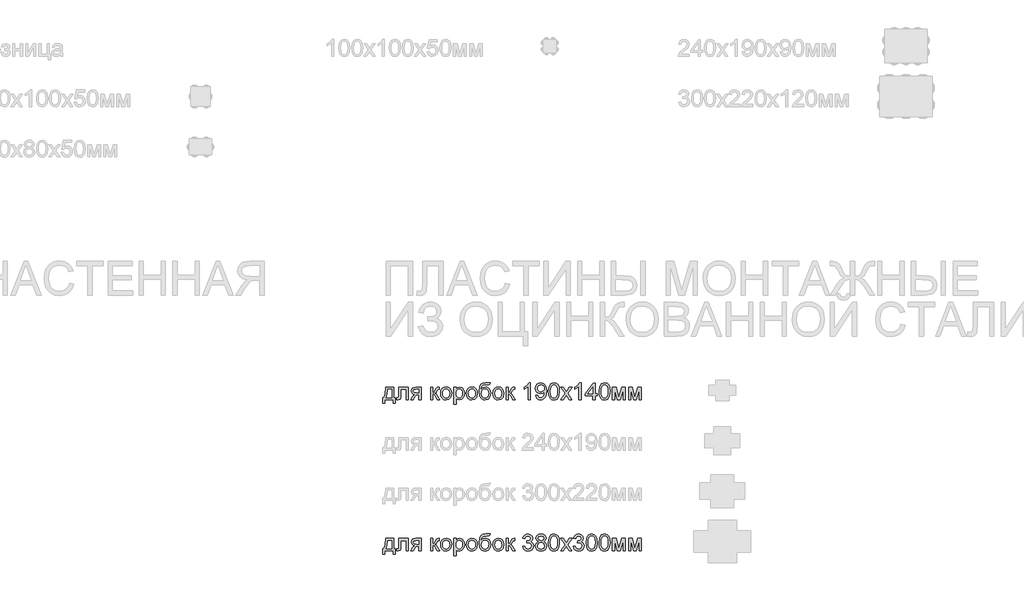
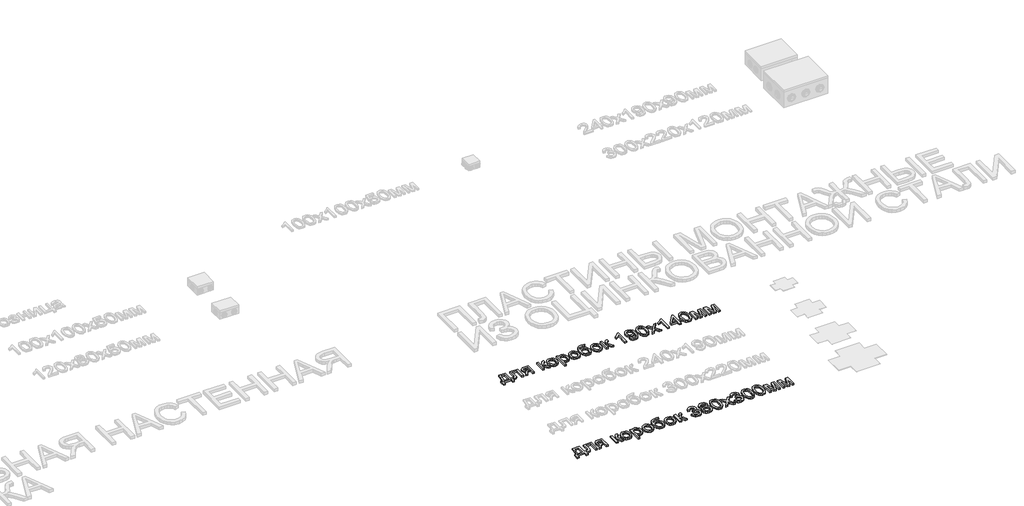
# One storey, part 8 of 98: 2 proxies.
"""IFC4 building model written with IfcOpenShell, lengths in millimetres."""

from ifc_helpers import new_model, si_unit, origin, origin_with_axes, place, context, project, spatial, polyline, outline, extrude, element, save

model = new_model("IFC4")

# Units and contexts
model_context = context("Model", 3, world=origin())
ifc_project = project(units=[si_unit("LENGTHUNIT", "METRE", prefix="MILLI")], contexts=[model_context])

# Site, building, storey
site = spatial("IfcSite", under=ifc_project)
building = spatial("IfcBuilding", under=site)
storey = spatial("IfcBuildingStorey", under=building, Name="Этаж 01", Elevation=0.0)

# Proxies
placement = place(None, origin())
element("IfcBuildingElementProxy", 1, Name="100", ObjectType="100", at=placement, inside=storey, context=model_context, shape_type="SweptSolid", body=[
    extrude(outline(polyline([(8408.5501681, -48330.4498145), (8455.6390635, -48330.4498145), (8455.6390635, -48391.6653785), (8465.0568426, -48391.6653785), (8465.0568426, -48424.6276053), (8452.4998038, -48424.6276053), (8452.4998038, -48404.2224173), (8400.7020189, -48404.2224173), (8400.7020189, -48424.6276053), (8388.1449801, -48424.6276053), (8388.1449801, -48391.6653785), (8395.9931294, -48391.6653785), (8405.6929513, -48367.7162606), (8408.5501681, -48330.4498145)]), holes=[polyline([(8419.5375771, -48343.0068533), (8416.5945211, -48371.6158098), (8410.119798, -48391.6653785), (8443.0820247, -48391.6653785), (8443.0820247, -48343.0068533), (8419.5375771, -48343.0068533)])]), origin_with_axes(), (0.0, 0.0, 1.0), 10.0),
    extrude(outline(polyline([(8485.4620306, -48330.4498145), (8541.968705, -48330.4498145), (8541.968705, -48404.1488409), (8529.4116663, -48404.1488409), (8529.4116663, -48343.0068533), (8498.0190694, -48343.0068533), (8498.0190694, -48378.2008975), (8497.1729408, -48394.4367562), (8492.5253649, -48401.2916241), (8481.537956, -48404.2224173), (8471.335362, -48403.5847552), (8471.335362, -48391.6653785), (8476.9516938, -48391.6653785), (8482.6293392, -48390.8928263), (8484.8979449, -48388.4402797), (8485.4620306, -48377.489659), (8485.4620306, -48330.4498145)])), origin_with_axes(), (0.0, 0.0, 1.0), 10.0),
    extrude(outline(polyline([(8617.3109377, -48330.4498145), (8617.3109377, -48404.2224173), (8604.7538989, -48404.2224173), (8604.7538989, -48375.9690801), (8597.9112938, -48375.9690801), (8588.5916166, -48377.5632354), (8579.8360251, -48388.2808642), (8569.8296348, -48404.2224173), (8555.3105587, -48404.2224173), (8567.9166484, -48384.0624839), (8578.6097518, -48373.6146353), (8570.0258385, -48370.984279), (8563.9925738, -48365.9872153), (8559.2346334, -48351.7624448), (8560.8594455, -48343.1662688), (8565.7338819, -48336.3604519), (8573.6862644, -48331.9274739), (8584.5449146, -48330.4498145), (8617.3109377, -48330.4498145)]), holes=[polyline([(8604.7538989, -48343.0068533), (8588.1992091, -48343.0068533), (8574.7960417, -48345.913121), (8571.7916721, -48352.718938), (8576.2185188, -48360.8246046), (8591.9025545, -48363.4120413), (8604.7538989, -48363.4120413), (8604.7538989, -48343.0068533)])]), origin_with_axes(), (0.0, 0.0, 1.0), 10.0),
    extrude(outline(polyline([(8675.387242, -48330.4498145), (8687.9442807, -48330.4498145), (8687.9442807, -48361.8424114), (8696.3565157, -48359.5860685), (8703.2481717, -48346.4404186), (8708.9748681, -48335.0973904), (8714.0271142, -48331.4063077), (8723.2119013, -48330.4498145), (8725.615397, -48330.4498145), (8725.615397, -48343.0804297), (8722.2308827, -48343.0068533), (8716.0995161, -48344.3312285), (8711.783034, -48352.5963106), (8706.7185252, -48361.5358431), (8699.6184027, -48365.9136389), (8707.5401283, -48370.800338), (8715.3147012, -48381.0949025), (8728.7546567, -48404.2224173), (8714.4808353, -48404.2224173), (8701.3106599, -48381.5854118), (8694.688784, -48372.0082172), (8687.9442807, -48369.6905607), (8687.9442807, -48404.2224173), (8675.387242, -48404.2224173), (8675.387242, -48330.4498145)])), origin_with_axes(), (0.0, 0.0, 1.0), 10.0),
    extrude(outline(polyline([(8733.4635463, -48367.3361159), (8736.1797417, -48349.5490214), (8744.3283279, -48337.047165), (8754.3960318, -48330.9219297), (8766.4502985, -48328.8801847), (8779.6419337, -48331.3664538), (8790.1786872, -48338.8252613), (8797.0856717, -48350.6679958), (8799.3879998, -48366.3060463), (8795.3167724, -48388.6487462), (8783.4587094, -48401.2916241), (8766.4502985, -48405.7920471), (8753.0992478, -48403.314975), (8742.574757, -48395.8837587), (8735.741349, -48383.7927038), (8733.4635463, -48367.3361159)]), holes=[polyline([(8746.020585, -48367.3115904), (8747.4737189, -48378.6760784), (8751.8331206, -48386.772548), (8758.3936828, -48391.6193933), (8766.4502985, -48393.2350084), (8774.470126, -48391.6101962), (8781.0184255, -48386.7357598), (8785.3778272, -48378.5319913), (8786.830961, -48366.919183), (8785.3686301, -48355.8857888), (8780.9816373, -48347.8996838), (8774.4241407, -48343.0528385), (8766.4502985, -48341.4372234), (8758.3936828, -48343.0467072), (8751.8331206, -48347.8751584), (8747.4737189, -48355.9532338), (8746.020585, -48367.3115904)])]), origin_with_axes(), (0.0, 0.0, 1.0), 10.0),
    extrude(outline(polyline([(8813.5146684, -48432.4757545), (8813.5146684, -48330.4498145), (8826.0717072, -48330.4498145), (8826.0717072, -48342.7615986), (8834.7537223, -48332.3505382), (8846.4768952, -48328.8801847), (8862.3939228, -48333.736227), (8872.7927206, -48347.4214372), (8876.2998623, -48366.7720302), (8872.3389994, -48387.1159045), (8860.8365557, -48400.972793), (8844.9563163, -48405.7920471), (8834.030221, -48402.5669483), (8826.0717072, -48394.4122307), (8826.0717072, -48432.4757545), (8813.5146684, -48432.4757545)]), holes=[polyline([(8826.0717072, -48367.9247271), (8827.4298049, -48379.1819161), (8831.504098, -48387.0545908), (8837.5159029, -48391.689904), (8844.6865361, -48393.2350084), (8851.9736653, -48391.6347217), (8858.1387544, -48386.8338616), (8862.3418062, -48378.6730127), (8863.7428235, -48366.9927594), (8862.3755287, -48355.796884), (8858.2736445, -48347.8138447), (8852.2710366, -48343.0313788), (8845.2015709, -48341.4372234), (8838.1045141, -48343.1325463), (8831.87198, -48348.2185149), (8827.5217754, -48356.5357137), (8826.0717072, -48367.9247271)])]), origin_with_axes(), (0.0, 0.0, 1.0), 10.0),
    extrude(outline(polyline([(8887.2872712, -48367.3361159), (8890.0034666, -48349.5490214), (8898.1520528, -48337.047165), (8908.2197567, -48330.9219297), (8920.2740234, -48328.8801847), (8933.4656586, -48331.3664538), (8944.0024121, -48338.8252613), (8950.9093966, -48350.6679958), (8953.2117247, -48366.3060463), (8949.1404973, -48388.6487462), (8937.2824343, -48401.2916241), (8920.2740234, -48405.7920471), (8906.9229727, -48403.314975), (8896.3984819, -48395.8837587), (8889.5650739, -48383.7927038), (8887.2872712, -48367.3361159)]), holes=[polyline([(8899.84431, -48367.3115904), (8901.2974438, -48378.6760784), (8905.6568455, -48386.772548), (8912.2174077, -48391.6193933), (8920.2740234, -48393.2350084), (8928.2938509, -48391.6101962), (8934.8421504, -48386.7357598), (8939.2015521, -48378.5319913), (8940.654686, -48366.919183), (8939.192355, -48355.8857888), (8934.8053622, -48347.8996838), (8928.2478657, -48343.0528385), (8920.2740234, -48341.4372234), (8912.2174077, -48343.0467072), (8905.6568455, -48347.8751584), (8901.2974438, -48355.9532338), (8899.84431, -48367.3115904)])]), origin_with_axes(), (0.0, 0.0, 1.0), 10.0),
    extrude(outline(polyline([(9019.1361783, -48302.1964773), (9030.1235872, -48302.1964773), (9026.8862256, -48311.9944011), (9020.4850789, -48315.538331), (9005.1076115, -48316.3231459), (8984.3958552, -48319.2171509), (8976.4496041, -48328.4877772), (8973.7640655, -48344.8953142), (8984.6411098, -48332.8778357), (8998.6574139, -48328.8801847), (9011.7233561, -48331.4216361), (9022.3244889, -48339.0459905), (9029.351035, -48351.005221), (9031.693217, -48366.551301), (9027.0456412, -48388.1582368), (9016.021444, -48401.1935222), (8998.6574139, -48405.7920471), (8987.3235827, -48404.3113221), (8978.8285743, -48399.869147), (8967.9760555, -48384.7124088), (8964.1991336, -48352.5472597), (8966.5811696, -48328.4540547), (8973.7272773, -48313.7602347), (8985.8152665, -48306.264639), (9003.0229469, -48303.7661071), (9017.0024627, -48303.4840643), (9019.1361783, -48302.1964773)]), holes=[polyline([(9019.1361783, -48366.1588935), (9017.7750149, -48356.2781963), (9013.6915247, -48348.3656677), (9007.1309625, -48343.1693345), (8998.3385828, -48341.4372234), (8989.1721898, -48343.2674364), (8982.3725042, -48348.7580751), (8978.1602554, -48357.3082658), (8976.7561724, -48368.3171346), (8978.3074082, -48378.9887781), (8982.9611154, -48386.8215989), (8989.8895596, -48391.631656), (8998.2650064, -48393.2350084), (9006.6833727, -48391.38027), (9013.3481682, -48385.8160548), (9017.6891757, -48377.1922877), (9019.1361783, -48366.1588935)])]), origin_with_axes(), (0.0, 0.0, 1.0), 10.0),
    extrude(outline(polyline([(9044.2502558, -48367.3361159), (9046.9664512, -48349.5490214), (9055.1150374, -48337.047165), (9065.1827413, -48330.9219297), (9077.237008, -48328.8801847), (9090.4286432, -48331.3664538), (9100.9653967, -48338.8252613), (9107.8723812, -48350.6679958), (9110.1747093, -48366.3060463), (9106.1034819, -48388.6487462), (9094.2454189, -48401.2916241), (9077.237008, -48405.7920471), (9063.8859573, -48403.314975), (9053.3614665, -48395.8837587), (9046.5280585, -48383.7927038), (9044.2502558, -48367.3361159)]), holes=[polyline([(9056.8072946, -48367.3115904), (9058.2604284, -48378.6760784), (9062.6198301, -48386.772548), (9069.1803923, -48391.6193933), (9077.237008, -48393.2350084), (9085.2568355, -48391.6101962), (9091.805135, -48386.7357598), (9096.1645367, -48378.5319913), (9097.6176706, -48366.919183), (9096.1553396, -48355.8857888), (9091.7683468, -48347.8996838), (9085.2108503, -48343.0528385), (9077.237008, -48341.4372234), (9069.1803923, -48343.0467072), (9062.6198301, -48347.8751584), (9058.2604284, -48355.9532338), (9056.8072946, -48367.3115904)])]), origin_with_axes(), (0.0, 0.0, 1.0), 10.0),
    extrude(outline(polyline([(9124.3013779, -48330.4498145), (9136.8584167, -48330.4498145), (9136.8584167, -48361.8424114), (9145.2706517, -48359.5860685), (9152.1623077, -48346.4404186), (9157.8890041, -48335.0973904), (9162.9412502, -48331.4063077), (9172.1260373, -48330.4498145), (9174.529533, -48330.4498145), (9174.529533, -48343.0804297), (9171.1450187, -48343.0068533), (9165.0136521, -48344.3312285), (9160.69717, -48352.5963106), (9155.6326612, -48361.5358431), (9148.5325387, -48365.9136389), (9156.4542643, -48370.800338), (9164.2288372, -48381.0949025), (9177.6687927, -48404.2224173), (9163.3949713, -48404.2224173), (9150.2247959, -48381.5854118), (9143.60292, -48372.0082172), (9136.8584167, -48369.6905607), (9136.8584167, -48404.2224173), (9124.3013779, -48404.2224173), (9124.3013779, -48330.4498145)])), origin_with_axes(), (0.0, 0.0, 1.0), 10.0),
    extrude(outline(polyline([(9268.7073238, -48404.2224173), (9256.150285, -48404.2224173), (9256.150285, -48325.9371287), (9244.2554338, -48334.4106773), (9231.0362075, -48340.7505104), (9231.0362075, -48328.8801847), (9249.44257, -48317.1324863), (9260.6139199, -48303.7661071), (9268.7073238, -48303.7661071), (9268.7073238, -48404.2224173)])), origin_with_axes(), (0.0, 0.0, 1.0), 10.0),
    extrude(outline(polyline([(9300.0999207, -48379.1083397), (9312.6569595, -48377.5387099), (9318.2978167, -48389.5194002), (9328.9909201, -48393.2350084), (9339.1567259, -48390.8437754), (9346.0483819, -48384.4548914), (9350.1563975, -48373.5410589), (9351.971282, -48358.9729319), (9351.8977056, -48356.5203852), (9341.8545272, -48366.0362662), (9328.0834778, -48369.6905607), (9316.6331507, -48367.4587432), (9307.1019413, -48360.7632909), (9300.6732035, -48350.4196755), (9298.5302909, -48337.2433687), (9300.7774367, -48323.6317349), (9307.5188743, -48312.963157), (9317.6448262, -48306.0653696), (9330.0455151, -48303.7661071), (9347.9368428, -48309.0145569), (9360.2486269, -48323.9750914), (9364.4547444, -48352.0812758), (9360.2608897, -48382.5786932), (9355.0461624, -48392.5697551), (9347.78969, -48399.8568843), (9338.8041723, -48404.3082564), (9328.4023089, -48405.7920471), (9317.666286, -48404.041542), (9309.1007669, -48398.7900265), (9303.1104217, -48390.3685945), (9300.0999207, -48379.1083397)]), holes=[polyline([(9351.8977056, -48336.9490631), (9350.5426736, -48328.4387263), (9346.4775776, -48321.8904268), (9340.1684013, -48317.7149661), (9332.0811288, -48316.3231459), (9323.6934193, -48317.822265), (9316.9734416, -48322.3196224), (9312.5588576, -48329.2020814), (9311.0873296, -48337.8565054), (9312.4791498, -48345.6157498), (9316.6546105, -48351.7747075), (9323.2090414, -48355.7938183), (9331.7377723, -48357.1335219), (9346.2200602, -48351.7747075), (9350.4782943, -48345.3888892), (9351.8977056, -48336.9490631)])]), origin_with_axes(), (0.0, 0.0, 1.0), 10.0),
    extrude(outline(polyline([(9375.4421533, -48354.8036026), (9379.133236, -48325.9003405), (9390.0961195, -48309.2352861), (9408.4043801, -48303.7661071), (9423.070609, -48307.0034687), (9433.1996266, -48316.3354086), (9439.0857385, -48331.1978412), (9441.3666069, -48354.8036026), (9437.7123124, -48383.5842374), (9426.7862171, -48400.2860799), (9418.5548575, -48404.4155553), (9408.4043801, -48405.7920471), (9395.356832, -48403.4008142), (9385.4485436, -48396.2271153), (9377.9437509, -48379.2370984), (9375.4421533, -48354.8036026)]), holes=[polyline([(9387.9991921, -48354.7790771), (9389.4707201, -48374.5312746), (9393.885304, -48385.9632076), (9400.458129, -48391.4170582), (9408.4043801, -48393.2350084), (9416.3506312, -48391.4109268), (9422.9234562, -48385.9386821), (9427.3380401, -48374.5006178), (9428.8095681, -48354.7790771), (9427.387091, -48335.4714038), (9423.1196599, -48323.9505659), (9416.5590976, -48318.2300009), (9408.2572273, -48316.3231459), (9400.3968153, -48318.0031403), (9394.0815077, -48323.0431237), (9389.519771, -48335.2813314), (9387.9991921, -48354.7790771)])]), origin_with_axes(), (0.0, 0.0, 1.0), 10.0),
    extrude(outline(polyline([(9447.6451262, -48404.2224173), (9474.4759864, -48367.1399122), (9449.2147561, -48330.4498145), (9464.3224434, -48330.4498145), (9476.5116001, -48348.1081503), (9482.2015083, -48356.4468088), (9487.1311271, -48349.6287292), (9501.012541, -48330.4498145), (9516.1202283, -48330.4498145), (9489.5836737, -48367.1399122), (9515.1392096, -48404.2224173), (9500.0315224, -48404.2224173), (9484.654055, -48381.9287684), (9481.8336263, -48377.857541), (9462.7528135, -48404.2224173), (9447.6451262, -48404.2224173)])), origin_with_axes(), (0.0, 0.0, 1.0), 10.0),
    extrude(outline(polyline([(9570.0762542, -48404.2224173), (9557.5192155, -48404.2224173), (9557.5192155, -48325.9371287), (9545.6243643, -48334.4106773), (9532.4051379, -48340.7505104), (9532.4051379, -48328.8801847), (9550.8115004, -48317.1324863), (9561.9828503, -48303.7661071), (9570.0762542, -48303.7661071), (9570.0762542, -48404.2224173)])), origin_with_axes(), (0.0, 0.0, 1.0), 10.0),
    extrude(outline(polyline([(9640.7095973, -48404.2224173), (9640.7095973, -48380.6779696), (9595.1903318, -48380.6779696), (9595.1903318, -48368.1209308), (9643.848857, -48305.335737), (9653.2666361, -48305.335737), (9653.2666361, -48368.1209308), (9665.8236748, -48368.1209308), (9665.8236748, -48380.6779696), (9653.2666361, -48380.6779696), (9653.2666361, -48404.2224173), (9640.7095973, -48404.2224173)]), holes=[polyline([(9640.7095973, -48368.1209308), (9640.7095973, -48329.3216431), (9610.6413756, -48368.1209308), (9640.7095973, -48368.1209308)])]), origin_with_axes(), (0.0, 0.0, 1.0), 10.0),
    extrude(outline(polyline([(9676.8110838, -48354.8036026), (9680.5021665, -48325.9003405), (9691.4650499, -48309.2352861), (9709.7733105, -48303.7661071), (9724.4395394, -48307.0034687), (9734.568557, -48316.3354086), (9740.4546689, -48331.1978412), (9742.7355373, -48354.8036026), (9739.0812428, -48383.5842374), (9728.1551476, -48400.2860799), (9719.9237879, -48404.4155553), (9709.7733105, -48405.7920471), (9696.7257624, -48403.4008142), (9686.817474, -48396.2271153), (9679.3126813, -48379.2370984), (9676.8110838, -48354.8036026)]), holes=[polyline([(9689.3681225, -48354.7790771), (9690.8396505, -48374.5312746), (9695.2542345, -48385.9632076), (9701.8270594, -48391.4170582), (9709.7733105, -48393.2350084), (9717.7195616, -48391.4109268), (9724.2923866, -48385.9386821), (9728.7069706, -48374.5006178), (9730.1784985, -48354.7790771), (9728.7560215, -48335.4714038), (9724.4885903, -48323.9505659), (9717.9280281, -48318.2300009), (9709.6261577, -48316.3231459), (9701.7657458, -48318.0031403), (9695.4504382, -48323.0431237), (9690.8887015, -48335.2813314), (9689.3681225, -48354.7790771)])]), origin_with_axes(), (0.0, 0.0, 1.0), 10.0),
    extrude(outline(polyline([(9756.8622059, -48330.4498145), (9778.4691418, -48330.4498145), (9795.1219334, -48389.5071375), (9813.0745748, -48330.4498145), (9833.7740684, -48330.4498145), (9833.7740684, -48404.2224173), (9821.2170296, -48404.2224173), (9821.2170296, -48344.8217378), (9803.1662864, -48404.2224173), (9786.685173, -48404.2224173), (9769.4192447, -48341.9767837), (9769.4192447, -48404.2224173), (9756.8622059, -48404.2224173), (9756.8622059, -48330.4498145)])), origin_with_axes(), (0.0, 0.0, 1.0), 10.0),
    extrude(outline(polyline([(9852.6096265, -48330.4498145), (9874.2165624, -48330.4498145), (9890.869354, -48389.5071375), (9908.8219954, -48330.4498145), (9929.521489, -48330.4498145), (9929.521489, -48404.2224173), (9916.9644502, -48404.2224173), (9916.9644502, -48344.8217378), (9898.913707, -48404.2224173), (9882.4325936, -48404.2224173), (9865.1666653, -48341.9767837), (9865.1666653, -48404.2224173), (9852.6096265, -48404.2224173), (9852.6096265, -48330.4498145)])), origin_with_axes(), (0.0, 0.0, 1.0), 10.0),
])
element("IfcBuildingElementProxy", 2, Name="100", ObjectType="100", at=placement, inside=storey, context=model_context, shape_type="SweptSolid", body=[
    extrude(outline(polyline([(8408.5501681, -49230.4498145), (8455.6390635, -49230.4498145), (8455.6390635, -49291.6653785), (8465.0568426, -49291.6653785), (8465.0568426, -49324.6276053), (8452.4998038, -49324.6276053), (8452.4998038, -49304.2224173), (8400.7020189, -49304.2224173), (8400.7020189, -49324.6276053), (8388.1449801, -49324.6276053), (8388.1449801, -49291.6653785), (8395.9931294, -49291.6653785), (8405.6929513, -49267.7162606), (8408.5501681, -49230.4498145)]), holes=[polyline([(8419.5375771, -49243.0068533), (8416.5945211, -49271.6158098), (8410.119798, -49291.6653785), (8443.0820247, -49291.6653785), (8443.0820247, -49243.0068533), (8419.5375771, -49243.0068533)])]), origin_with_axes(), (0.0, 0.0, 1.0), 10.0),
    extrude(outline(polyline([(8485.4620306, -49230.4498145), (8541.968705, -49230.4498145), (8541.968705, -49304.1488409), (8529.4116663, -49304.1488409), (8529.4116663, -49243.0068533), (8498.0190694, -49243.0068533), (8498.0190694, -49278.2008975), (8497.1729408, -49294.4367562), (8492.5253649, -49301.2916241), (8481.537956, -49304.2224173), (8471.335362, -49303.5847552), (8471.335362, -49291.6653785), (8476.9516938, -49291.6653785), (8482.6293392, -49290.8928263), (8484.8979449, -49288.4402797), (8485.4620306, -49277.489659), (8485.4620306, -49230.4498145)])), origin_with_axes(), (0.0, 0.0, 1.0), 10.0),
    extrude(outline(polyline([(8617.3109377, -49230.4498145), (8617.3109377, -49304.2224173), (8604.7538989, -49304.2224173), (8604.7538989, -49275.9690801), (8597.9112938, -49275.9690801), (8588.5916166, -49277.5632354), (8579.8360251, -49288.2808642), (8569.8296348, -49304.2224173), (8555.3105587, -49304.2224173), (8567.9166484, -49284.0624839), (8578.6097518, -49273.6146353), (8570.0258385, -49270.984279), (8563.9925738, -49265.9872153), (8559.2346334, -49251.7624448), (8560.8594455, -49243.1662688), (8565.7338819, -49236.3604519), (8573.6862644, -49231.9274739), (8584.5449146, -49230.4498145), (8617.3109377, -49230.4498145)]), holes=[polyline([(8604.7538989, -49243.0068533), (8588.1992091, -49243.0068533), (8574.7960417, -49245.913121), (8571.7916721, -49252.718938), (8576.2185188, -49260.8246046), (8591.9025545, -49263.4120413), (8604.7538989, -49263.4120413), (8604.7538989, -49243.0068533)])]), origin_with_axes(), (0.0, 0.0, 1.0), 10.0),
    extrude(outline(polyline([(8675.387242, -49230.4498145), (8687.9442807, -49230.4498145), (8687.9442807, -49261.8424114), (8696.3565157, -49259.5860685), (8703.2481717, -49246.4404186), (8708.9748681, -49235.0973904), (8714.0271142, -49231.4063077), (8723.2119013, -49230.4498145), (8725.615397, -49230.4498145), (8725.615397, -49243.0804297), (8722.2308827, -49243.0068533), (8716.0995161, -49244.3312285), (8711.783034, -49252.5963106), (8706.7185252, -49261.5358431), (8699.6184027, -49265.9136389), (8707.5401283, -49270.800338), (8715.3147012, -49281.0949025), (8728.7546567, -49304.2224173), (8714.4808353, -49304.2224173), (8701.3106599, -49281.5854118), (8694.688784, -49272.0082172), (8687.9442807, -49269.6905607), (8687.9442807, -49304.2224173), (8675.387242, -49304.2224173), (8675.387242, -49230.4498145)])), origin_with_axes(), (0.0, 0.0, 1.0), 10.0),
    extrude(outline(polyline([(8733.4635463, -49267.3361159), (8736.1797417, -49249.5490214), (8744.3283279, -49237.047165), (8754.3960318, -49230.9219297), (8766.4502985, -49228.8801847), (8779.6419337, -49231.3664538), (8790.1786872, -49238.8252613), (8797.0856717, -49250.6679958), (8799.3879998, -49266.3060463), (8795.3167724, -49288.6487462), (8783.4587094, -49301.2916241), (8766.4502985, -49305.7920471), (8753.0992478, -49303.314975), (8742.574757, -49295.8837587), (8735.741349, -49283.7927038), (8733.4635463, -49267.3361159)]), holes=[polyline([(8746.020585, -49267.3115904), (8747.4737189, -49278.6760784), (8751.8331206, -49286.772548), (8758.3936828, -49291.6193933), (8766.4502985, -49293.2350084), (8774.470126, -49291.6101962), (8781.0184255, -49286.7357598), (8785.3778272, -49278.5319913), (8786.830961, -49266.919183), (8785.3686301, -49255.8857888), (8780.9816373, -49247.8996838), (8774.4241407, -49243.0528385), (8766.4502985, -49241.4372234), (8758.3936828, -49243.0467072), (8751.8331206, -49247.8751584), (8747.4737189, -49255.9532338), (8746.020585, -49267.3115904)])]), origin_with_axes(), (0.0, 0.0, 1.0), 10.0),
    extrude(outline(polyline([(8813.5146684, -49332.4757545), (8813.5146684, -49230.4498145), (8826.0717072, -49230.4498145), (8826.0717072, -49242.7615986), (8834.7537223, -49232.3505382), (8846.4768952, -49228.8801847), (8862.3939228, -49233.736227), (8872.7927206, -49247.4214372), (8876.2998623, -49266.7720302), (8872.3389994, -49287.1159045), (8860.8365557, -49300.972793), (8844.9563163, -49305.7920471), (8834.030221, -49302.5669483), (8826.0717072, -49294.4122307), (8826.0717072, -49332.4757545), (8813.5146684, -49332.4757545)]), holes=[polyline([(8826.0717072, -49267.9247271), (8827.4298049, -49279.1819161), (8831.504098, -49287.0545908), (8837.5159029, -49291.689904), (8844.6865361, -49293.2350084), (8851.9736653, -49291.6347217), (8858.1387544, -49286.8338616), (8862.3418062, -49278.6730127), (8863.7428235, -49266.9927594), (8862.3755287, -49255.796884), (8858.2736445, -49247.8138447), (8852.2710366, -49243.0313788), (8845.2015709, -49241.4372234), (8838.1045141, -49243.1325463), (8831.87198, -49248.2185149), (8827.5217754, -49256.5357137), (8826.0717072, -49267.9247271)])]), origin_with_axes(), (0.0, 0.0, 1.0), 10.0),
    extrude(outline(polyline([(8887.2872712, -49267.3361159), (8890.0034666, -49249.5490214), (8898.1520528, -49237.047165), (8908.2197567, -49230.9219297), (8920.2740234, -49228.8801847), (8933.4656586, -49231.3664538), (8944.0024121, -49238.8252613), (8950.9093966, -49250.6679958), (8953.2117247, -49266.3060463), (8949.1404973, -49288.6487462), (8937.2824343, -49301.2916241), (8920.2740234, -49305.7920471), (8906.9229727, -49303.314975), (8896.3984819, -49295.8837587), (8889.5650739, -49283.7927038), (8887.2872712, -49267.3361159)]), holes=[polyline([(8899.84431, -49267.3115904), (8901.2974438, -49278.6760784), (8905.6568455, -49286.772548), (8912.2174077, -49291.6193933), (8920.2740234, -49293.2350084), (8928.2938509, -49291.6101962), (8934.8421504, -49286.7357598), (8939.2015521, -49278.5319913), (8940.654686, -49266.919183), (8939.192355, -49255.8857888), (8934.8053622, -49247.8996838), (8928.2478657, -49243.0528385), (8920.2740234, -49241.4372234), (8912.2174077, -49243.0467072), (8905.6568455, -49247.8751584), (8901.2974438, -49255.9532338), (8899.84431, -49267.3115904)])]), origin_with_axes(), (0.0, 0.0, 1.0), 10.0),
    extrude(outline(polyline([(9019.1361783, -49202.1964773), (9030.1235872, -49202.1964773), (9026.8862256, -49211.9944011), (9020.4850789, -49215.538331), (9005.1076115, -49216.3231459), (8984.3958552, -49219.2171509), (8976.4496041, -49228.4877772), (8973.7640655, -49244.8953142), (8984.6411098, -49232.8778357), (8998.6574139, -49228.8801847), (9011.7233561, -49231.4216361), (9022.3244889, -49239.0459905), (9029.351035, -49251.005221), (9031.693217, -49266.551301), (9027.0456412, -49288.1582368), (9016.021444, -49301.1935222), (8998.6574139, -49305.7920471), (8987.3235827, -49304.3113221), (8978.8285743, -49299.869147), (8967.9760555, -49284.7124088), (8964.1991336, -49252.5472597), (8966.5811696, -49228.4540547), (8973.7272773, -49213.7602347), (8985.8152665, -49206.264639), (9003.0229469, -49203.7661071), (9017.0024627, -49203.4840643), (9019.1361783, -49202.1964773)]), holes=[polyline([(9019.1361783, -49266.1588935), (9017.7750149, -49256.2781963), (9013.6915247, -49248.3656677), (9007.1309625, -49243.1693345), (8998.3385828, -49241.4372234), (8989.1721898, -49243.2674364), (8982.3725042, -49248.7580751), (8978.1602554, -49257.3082658), (8976.7561724, -49268.3171346), (8978.3074082, -49278.9887781), (8982.9611154, -49286.8215989), (8989.8895596, -49291.631656), (8998.2650064, -49293.2350084), (9006.6833727, -49291.38027), (9013.3481682, -49285.8160548), (9017.6891757, -49277.1922877), (9019.1361783, -49266.1588935)])]), origin_with_axes(), (0.0, 0.0, 1.0), 10.0),
    extrude(outline(polyline([(9044.2502558, -49267.3361159), (9046.9664512, -49249.5490214), (9055.1150374, -49237.047165), (9065.1827413, -49230.9219297), (9077.237008, -49228.8801847), (9090.4286432, -49231.3664538), (9100.9653967, -49238.8252613), (9107.8723812, -49250.6679958), (9110.1747093, -49266.3060463), (9106.1034819, -49288.6487462), (9094.2454189, -49301.2916241), (9077.237008, -49305.7920471), (9063.8859573, -49303.314975), (9053.3614665, -49295.8837587), (9046.5280585, -49283.7927038), (9044.2502558, -49267.3361159)]), holes=[polyline([(9056.8072946, -49267.3115904), (9058.2604284, -49278.6760784), (9062.6198301, -49286.772548), (9069.1803923, -49291.6193933), (9077.237008, -49293.2350084), (9085.2568355, -49291.6101962), (9091.805135, -49286.7357598), (9096.1645367, -49278.5319913), (9097.6176706, -49266.919183), (9096.1553396, -49255.8857888), (9091.7683468, -49247.8996838), (9085.2108503, -49243.0528385), (9077.237008, -49241.4372234), (9069.1803923, -49243.0467072), (9062.6198301, -49247.8751584), (9058.2604284, -49255.9532338), (9056.8072946, -49267.3115904)])]), origin_with_axes(), (0.0, 0.0, 1.0), 10.0),
    extrude(outline(polyline([(9124.3013779, -49230.4498145), (9136.8584167, -49230.4498145), (9136.8584167, -49261.8424114), (9145.2706517, -49259.5860685), (9152.1623077, -49246.4404186), (9157.8890041, -49235.0973904), (9162.9412502, -49231.4063077), (9172.1260373, -49230.4498145), (9174.529533, -49230.4498145), (9174.529533, -49243.0804297), (9171.1450187, -49243.0068533), (9165.0136521, -49244.3312285), (9160.69717, -49252.5963106), (9155.6326612, -49261.5358431), (9148.5325387, -49265.9136389), (9156.4542643, -49270.800338), (9164.2288372, -49281.0949025), (9177.6687927, -49304.2224173), (9163.3949713, -49304.2224173), (9150.2247959, -49281.5854118), (9143.60292, -49272.0082172), (9136.8584167, -49269.6905607), (9136.8584167, -49304.2224173), (9124.3013779, -49304.2224173), (9124.3013779, -49230.4498145)])), origin_with_axes(), (0.0, 0.0, 1.0), 10.0),
    extrude(outline(polyline([(9221.6184284, -49277.5387099), (9234.1754672, -49275.9690801), (9241.1039114, -49289.1883064), (9254.0656204, -49293.2350084), (9262.6740591, -49291.8431881), (9269.3204604, -49287.6677275), (9274.9858432, -49273.8844154), (9269.3695114, -49260.898181), (9255.09569, -49255.7600958), (9246.2910475, -49257.1335219), (9247.6889991, -49244.5764831), (9249.7000874, -49244.7236359), (9263.9493833, -49241.1183924), (9268.6950611, -49236.5443929), (9270.2769536, -49230.0328816), (9265.6906914, -49220.2104323), (9253.8694166, -49216.3231459), (9241.9009891, -49220.2472205), (9235.745097, -49232.0194444), (9223.1880582, -49230.4498145), (9226.8852723, -49219.1742314), (9233.4642286, -49210.755865), (9242.4650748, -49205.5135466), (9253.4279583, -49203.7661071), (9268.5724337, -49207.2119352), (9279.1674352, -49216.6297142), (9282.8339924, -49229.2971176), (9279.3513762, -49240.8731377), (9269.0506803, -49249.1872708), (9282.7358905, -49257.771184), (9287.5428819, -49274.1051446), (9285.1393862, -49286.3433523), (9277.9288991, -49296.5704718), (9267.0457234, -49303.4866533), (9253.624162, -49305.7920471), (9241.4840561, -49303.8238785), (9231.6002932, -49297.9193724), (9224.7270313, -49288.8878695), (9221.6184284, -49277.5387099)])), origin_with_axes(), (0.0, 0.0, 1.0), 10.0),
    extrude(outline(polyline([(9316.8262888, -49248.8929652), (9305.3851587, -49241.0938669), (9301.6695506, -49228.9537611), (9303.6929015, -49219.1374432), (9309.7629544, -49211.0256452), (9319.1991276, -49205.5809916), (9331.3208394, -49203.7661071), (9343.5161275, -49205.6239112), (9353.074928, -49211.1973234), (9359.2553455, -49219.4378801), (9361.3154847, -49229.2971176), (9357.6489275, -49241.1306551), (9346.5266285, -49248.8929652), (9359.8807449, -49258.7399399), (9364.4547444, -49274.9880614), (9362.1861388, -49286.9932772), (9355.3803218, -49296.9138283), (9344.8711595, -49303.5724924), (9331.4925176, -49305.7920471), (9318.1138757, -49303.5632954), (9307.6047134, -49296.8770401), (9300.7988965, -49286.8614528), (9298.5302909, -49274.6447049), (9303.2882313, -49258.0164387), (9316.8262888, -49248.8929652)]), holes=[polyline([(9314.2265893, -49229.3216431), (9318.6779615, -49239.1808805), (9331.6396704, -49243.0068533), (9344.343862, -49239.205406), (9348.7584459, -49229.8857288), (9344.1967092, -49220.2349578), (9331.4925176, -49216.3231459), (9318.7515379, -49220.1491187), (9314.2265893, -49229.3216431)]), polyline([(9311.0873296, -49274.2032465), (9313.184257, -49283.6578138), (9320.6032106, -49290.7334108), (9331.5906195, -49293.2350084), (9340.1377445, -49291.9198302), (9346.551154, -49287.9742958), (9351.8977056, -49274.5956539), (9346.3794757, -49260.9594947), (9339.8189135, -49256.9127927), (9331.1736866, -49255.5638921), (9322.7461232, -49256.8943986), (9316.3970931, -49260.8859183), (9311.0873296, -49274.2032465)])]), origin_with_axes(), (0.0, 0.0, 1.0), 10.0),
    extrude(outline(polyline([(9375.4421533, -49254.8036026), (9379.133236, -49225.9003405), (9390.0961195, -49209.2352861), (9408.4043801, -49203.7661071), (9423.070609, -49207.0034687), (9433.1996266, -49216.3354086), (9439.0857385, -49231.1978412), (9441.3666069, -49254.8036026), (9437.7123124, -49283.5842374), (9426.7862171, -49300.2860799), (9418.5548575, -49304.4155553), (9408.4043801, -49305.7920471), (9395.356832, -49303.4008142), (9385.4485436, -49296.2271153), (9377.9437509, -49279.2370984), (9375.4421533, -49254.8036026)]), holes=[polyline([(9387.9991921, -49254.7790771), (9389.4707201, -49274.5312746), (9393.885304, -49285.9632076), (9400.458129, -49291.4170582), (9408.4043801, -49293.2350084), (9416.3506312, -49291.4109268), (9422.9234562, -49285.9386821), (9427.3380401, -49274.5006178), (9428.8095681, -49254.7790771), (9427.387091, -49235.4714038), (9423.1196599, -49223.9505659), (9416.5590976, -49218.2300009), (9408.2572273, -49216.3231459), (9400.3968153, -49218.0031403), (9394.0815077, -49223.0431237), (9389.519771, -49235.2813314), (9387.9991921, -49254.7790771)])]), origin_with_axes(), (0.0, 0.0, 1.0), 10.0),
    extrude(outline(polyline([(9447.6451262, -49304.2224173), (9474.4759864, -49267.1399122), (9449.2147561, -49230.4498145), (9464.3224434, -49230.4498145), (9476.5116001, -49248.1081503), (9482.2015083, -49256.4468088), (9487.1311271, -49249.6287292), (9501.012541, -49230.4498145), (9516.1202283, -49230.4498145), (9489.5836737, -49267.1399122), (9515.1392096, -49304.2224173), (9500.0315224, -49304.2224173), (9484.654055, -49281.9287684), (9481.8336263, -49277.857541), (9462.7528135, -49304.2224173), (9447.6451262, -49304.2224173)])), origin_with_axes(), (0.0, 0.0, 1.0), 10.0),
    extrude(outline(polyline([(9522.9873589, -49277.5387099), (9535.5443976, -49275.9690801), (9542.4728419, -49289.1883064), (9555.4345508, -49293.2350084), (9564.0429895, -49291.8431881), (9570.6893909, -49287.6677275), (9576.3547736, -49273.8844154), (9570.7384418, -49260.898181), (9556.4646204, -49255.7600958), (9547.659978, -49257.1335219), (9549.0579296, -49244.5764831), (9551.0690178, -49244.7236359), (9565.3183138, -49241.1183924), (9570.0639915, -49236.5443929), (9571.6458841, -49230.0328816), (9567.0596219, -49220.2104323), (9555.2383471, -49216.3231459), (9543.2699195, -49220.2472205), (9537.1140275, -49232.0194444), (9524.5569887, -49230.4498145), (9528.2542027, -49219.1742314), (9534.8331591, -49210.755865), (9543.8340052, -49205.5135466), (9554.7968887, -49203.7661071), (9569.9413642, -49207.2119352), (9580.5363656, -49216.6297142), (9584.2029228, -49229.2971176), (9580.7203066, -49240.8731377), (9570.4196108, -49249.1872708), (9584.104821, -49257.771184), (9588.9118124, -49274.1051446), (9586.5083167, -49286.3433523), (9579.2978296, -49296.5704718), (9568.4146539, -49303.4866533), (9554.9930924, -49305.7920471), (9542.8529866, -49303.8238785), (9532.9692237, -49297.9193724), (9526.0959617, -49288.8878695), (9522.9873589, -49277.5387099)])), origin_with_axes(), (0.0, 0.0, 1.0), 10.0),
    extrude(outline(polyline([(9599.8992213, -49254.8036026), (9603.590304, -49225.9003405), (9614.5531875, -49209.2352861), (9632.8614481, -49203.7661071), (9647.527677, -49207.0034687), (9657.6566946, -49216.3354086), (9663.5428065, -49231.1978412), (9665.8236748, -49254.8036026), (9662.1693804, -49283.5842374), (9651.2432851, -49300.2860799), (9643.0119255, -49304.4155553), (9632.8614481, -49305.7920471), (9619.8139, -49303.4008142), (9609.9056116, -49296.2271153), (9602.4008189, -49279.2370984), (9599.8992213, -49254.8036026)]), holes=[polyline([(9612.4562601, -49254.7790771), (9613.9277881, -49274.5312746), (9618.342372, -49285.9632076), (9624.915197, -49291.4170582), (9632.8614481, -49293.2350084), (9640.8076992, -49291.4109268), (9647.3805242, -49285.9386821), (9651.7951081, -49274.5006178), (9653.2666361, -49254.7790771), (9651.844159, -49235.4714038), (9647.5767279, -49223.9505659), (9641.0161656, -49218.2300009), (9632.7142953, -49216.3231459), (9624.8538833, -49218.0031403), (9618.5385757, -49223.0431237), (9613.976839, -49235.2813314), (9612.4562601, -49254.7790771)])]), origin_with_axes(), (0.0, 0.0, 1.0), 10.0),
    extrude(outline(polyline([(9676.8110838, -49254.8036026), (9680.5021665, -49225.9003405), (9691.4650499, -49209.2352861), (9709.7733105, -49203.7661071), (9724.4395394, -49207.0034687), (9734.568557, -49216.3354086), (9740.4546689, -49231.1978412), (9742.7355373, -49254.8036026), (9739.0812428, -49283.5842374), (9728.1551476, -49300.2860799), (9719.9237879, -49304.4155553), (9709.7733105, -49305.7920471), (9696.7257624, -49303.4008142), (9686.817474, -49296.2271153), (9679.3126813, -49279.2370984), (9676.8110838, -49254.8036026)]), holes=[polyline([(9689.3681225, -49254.7790771), (9690.8396505, -49274.5312746), (9695.2542345, -49285.9632076), (9701.8270594, -49291.4170582), (9709.7733105, -49293.2350084), (9717.7195616, -49291.4109268), (9724.2923866, -49285.9386821), (9728.7069706, -49274.5006178), (9730.1784985, -49254.7790771), (9728.7560215, -49235.4714038), (9724.4885903, -49223.9505659), (9717.9280281, -49218.2300009), (9709.6261577, -49216.3231459), (9701.7657458, -49218.0031403), (9695.4504382, -49223.0431237), (9690.8887015, -49235.2813314), (9689.3681225, -49254.7790771)])]), origin_with_axes(), (0.0, 0.0, 1.0), 10.0),
    extrude(outline(polyline([(9756.8622059, -49230.4498145), (9778.4691418, -49230.4498145), (9795.1219334, -49289.5071375), (9813.0745748, -49230.4498145), (9833.7740684, -49230.4498145), (9833.7740684, -49304.2224173), (9821.2170296, -49304.2224173), (9821.2170296, -49244.8217378), (9803.1662864, -49304.2224173), (9786.685173, -49304.2224173), (9769.4192447, -49241.9767837), (9769.4192447, -49304.2224173), (9756.8622059, -49304.2224173), (9756.8622059, -49230.4498145)])), origin_with_axes(), (0.0, 0.0, 1.0), 10.0),
    extrude(outline(polyline([(9852.6096265, -49230.4498145), (9874.2165624, -49230.4498145), (9890.869354, -49289.5071375), (9908.8219954, -49230.4498145), (9929.521489, -49230.4498145), (9929.521489, -49304.2224173), (9916.9644502, -49304.2224173), (9916.9644502, -49244.8217378), (9898.913707, -49304.2224173), (9882.4325936, -49304.2224173), (9865.1666653, -49241.9767837), (9865.1666653, -49304.2224173), (9852.6096265, -49304.2224173), (9852.6096265, -49230.4498145)])), origin_with_axes(), (0.0, 0.0, 1.0), 10.0),
])

save(model, "model.ifc")
